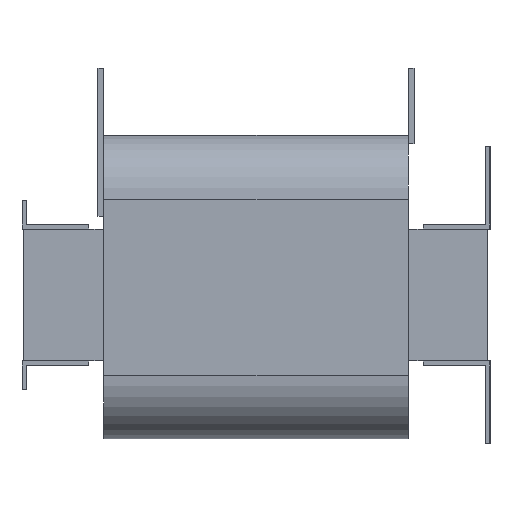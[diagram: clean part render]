
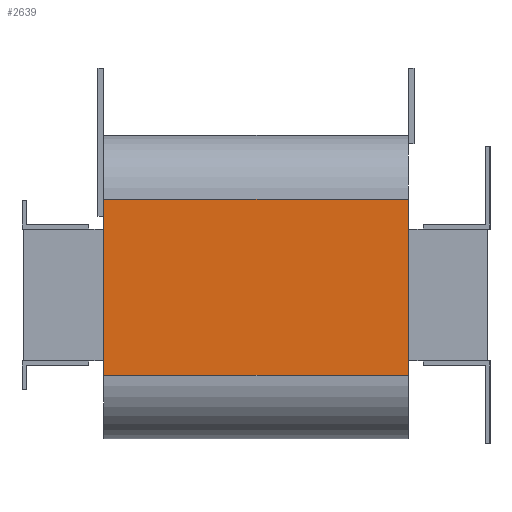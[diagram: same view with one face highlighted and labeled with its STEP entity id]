
A CAD part, left-side view. The second image highlights one B-rep face of the part: STEP entity #2639.
In plain terms, the highlighted planar face has unit normal (-1, 0, 0).
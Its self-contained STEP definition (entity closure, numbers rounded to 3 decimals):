
#114=PLANE('',#2843);
#243=FACE_OUTER_BOUND('',#393,.T.);
#393=EDGE_LOOP('',(#2263,#2264,#2265,#2266));
#670=LINE('',#4142,#996);
#689=LINE('',#4192,#1015);
#690=LINE('',#4195,#1016);
#691=LINE('',#4196,#1017);
#996=VECTOR('',#3383,10.);
#1015=VECTOR('',#3428,10.);
#1016=VECTOR('',#3431,10.);
#1017=VECTOR('',#3432,10.);
#1325=VERTEX_POINT('',#4139);
#1326=VERTEX_POINT('',#4141);
#1344=VERTEX_POINT('',#4190);
#1345=VERTEX_POINT('',#4194);
#1652=EDGE_CURVE('',#1325,#1326,#670,.T.);
#1678=EDGE_CURVE('',#1344,#1325,#689,.T.);
#1679=EDGE_CURVE('',#1344,#1345,#690,.T.);
#1680=EDGE_CURVE('',#1326,#1345,#691,.T.);
#2263=ORIENTED_EDGE('',*,*,#1678,.F.);
#2264=ORIENTED_EDGE('',*,*,#1679,.T.);
#2265=ORIENTED_EDGE('',*,*,#1680,.F.);
#2266=ORIENTED_EDGE('',*,*,#1652,.F.);
#2639=ADVANCED_FACE('',(#243),#114,.T.);
#2843=AXIS2_PLACEMENT_3D('',#4193,#3429,#3430);
#3383=DIRECTION('',(0.,0.,1.));
#3428=DIRECTION('',(0.,1.,0.));
#3429=DIRECTION('center_axis',(-1.,0.,0.));
#3430=DIRECTION('ref_axis',(0.,0.,1.));
#3431=DIRECTION('',(0.,0.,1.));
#3432=DIRECTION('',(0.,-1.,0.));
#4139=CARTESIAN_POINT('',(-265.,272.5,-56.5));
#4141=CARTESIAN_POINT('',(-265.,272.5,67.5));
#4142=CARTESIAN_POINT('',(-265.,272.5,-101.5));
#4190=CARTESIAN_POINT('',(-265.,57.5,-56.5));
#4192=CARTESIAN_POINT('',(-265.,57.5,-56.5));
#4193=CARTESIAN_POINT('Origin',(-265.,57.5,-101.5));
#4194=CARTESIAN_POINT('',(-265.,57.5,67.5));
#4195=CARTESIAN_POINT('',(-265.,57.5,-101.5));
#4196=CARTESIAN_POINT('',(-265.,57.5,67.5));
